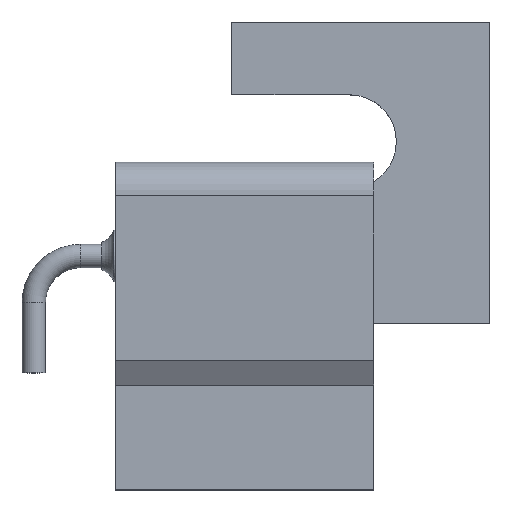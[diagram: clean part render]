
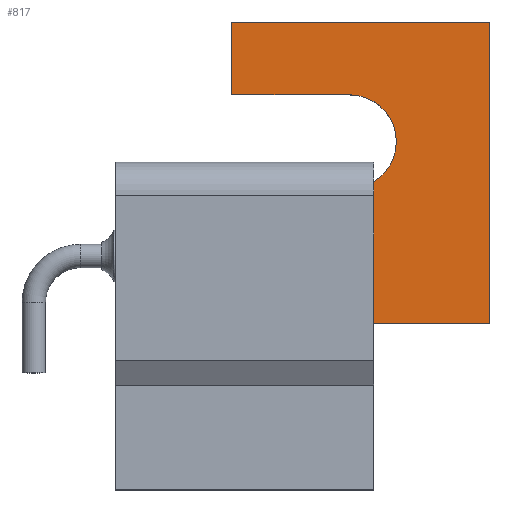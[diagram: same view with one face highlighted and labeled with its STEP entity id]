
A CAD part, top view. The second image highlights one B-rep face of the part: STEP entity #817.
In plain terms, the highlighted planar face has unit normal (0, 0, 1).
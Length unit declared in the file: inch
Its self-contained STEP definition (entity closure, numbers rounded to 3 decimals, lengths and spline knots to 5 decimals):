
#4 = CARTESIAN_POINT ( 'NONE',  ( 0.38, 0.1, 0.25 ) ) ;
#12 = CARTESIAN_POINT ( 'NONE',  ( -0.9, 0.1, 0.25 ) ) ;
#25 = CARTESIAN_POINT ( 'NONE',  ( 0.25, 0.389, 0.25 ) ) ;
#26 = ORIENTED_EDGE ( 'NONE', *, *, #838, .F. ) ;
#53 = ORIENTED_EDGE ( 'NONE', *, *, #388, .F. ) ;
#56 = ORIENTED_EDGE ( 'NONE', *, *, #480, .F. ) ;
#71 = AXIS2_PLACEMENT_3D ( 'NONE', #1658, #393, #2074 ) ;
#79 = ORIENTED_EDGE ( 'NONE', *, *, #903, .T. ) ;
#104 = VERTEX_POINT ( 'NONE', #2160 ) ;
#105 = ORIENTED_EDGE ( 'NONE', *, *, #167, .F. ) ;
#112 = CARTESIAN_POINT ( 'NONE',  ( 0.38, 0.35, 0.25 ) ) ;
#129 = DIRECTION ( 'NONE',  ( 0., 1., 0. ) ) ;
#150 = CARTESIAN_POINT ( 'NONE',  ( -0.38, 2.5, 0.25 ) ) ;
#155 = LINE ( 'NONE', #4, #2202 ) ;
#162 = ORIENTED_EDGE ( 'NONE', *, *, #2021, .T. ) ;
#167 = EDGE_CURVE ( 'NONE', #104, #286, #1410, .T. ) ;
#172 = EDGE_CURVE ( 'NONE', #195, #2004, #1234, .T. ) ;
#176 = LINE ( 'NONE', #226, #898 ) ;
#195 = VERTEX_POINT ( 'NONE', #2010 ) ;
#226 = CARTESIAN_POINT ( 'NONE',  ( 0.38, 0.389, 0.25 ) ) ;
#238 = DIRECTION ( 'NONE',  ( 0., -1., 0. ) ) ;
#241 = CARTESIAN_POINT ( 'NONE',  ( 0.28, 0.57327, 0.25 ) ) ;
#253 = DIRECTION ( 'NONE',  ( 0., -1., 0. ) ) ;
#264 = VECTOR ( 'NONE', #2005, 39.37008 ) ;
#286 = VERTEX_POINT ( 'NONE', #1776 ) ;
#288 = VECTOR ( 'NONE', #1350, 39.37008 ) ;
#337 = DIRECTION ( 'NONE',  ( -1., 0., 0. ) ) ;
#341 = CARTESIAN_POINT ( 'NONE',  ( 0.38, 0., 0.25 ) ) ;
#347 = FACE_BOUND ( 'NONE', #599, .T. ) ;
#378 = VERTEX_POINT ( 'NONE', #1501 ) ;
#388 = EDGE_CURVE ( 'NONE', #1631, #2162, #1002, .T. ) ;
#392 = VERTEX_POINT ( 'NONE', #1453 ) ;
#393 = DIRECTION ( 'NONE',  ( 0., 0., 1. ) ) ;
#401 = DIRECTION ( 'NONE',  ( -1., 0., 0. ) ) ;
#402 = CARTESIAN_POINT ( 'NONE',  ( 0.25, 1.611, 0.25 ) ) ;
#411 = CARTESIAN_POINT ( 'NONE',  ( 0.25, 2.111, 0.25 ) ) ;
#423 = CARTESIAN_POINT ( 'NONE',  ( 0.25, 2.111, 0.25 ) ) ;
#427 = LINE ( 'NONE', #1344, #288 ) ;
#450 = ORIENTED_EDGE ( 'NONE', *, *, #1853, .F. ) ;
#465 = DIRECTION ( 'NONE',  ( -1., 0., 0. ) ) ;
#471 = DIRECTION ( 'NONE',  ( 0., 0., -1. ) ) ;
#476 = PLANE ( 'NONE',  #1660 ) ;
#480 = EDGE_CURVE ( 'NONE', #655, #1326, #427, .T. ) ;
#501 = CARTESIAN_POINT ( 'NONE',  ( -0.25, 0.639, 0.25 ) ) ;
#504 = AXIS2_PLACEMENT_3D ( 'NONE', #589, #586, #583 ) ;
#518 = VERTEX_POINT ( 'NONE', #1224 ) ;
#541 = CARTESIAN_POINT ( 'NONE',  ( -0.38, 2.5, 0.25 ) ) ;
#583 = DIRECTION ( 'NONE',  ( -1., 0., 0. ) ) ;
#586 = DIRECTION ( 'NONE',  ( 0., 0., 1. ) ) ;
#589 = CARTESIAN_POINT ( 'NONE',  ( 0.25, 1.861, 0.25 ) ) ;
#592 = DIRECTION ( 'NONE',  ( 0., 1., 0. ) ) ;
#598 = LINE ( 'NONE', #960, #1808 ) ;
#599 = EDGE_LOOP ( 'NONE', ( #162, #1044, #1071, #79 ) ) ;
#613 = EDGE_CURVE ( 'NONE', #2004, #1869, #598, .T. ) ;
#655 = VERTEX_POINT ( 'NONE', #883 ) ;
#661 = CARTESIAN_POINT ( 'NONE',  ( 0.25, 1.611, 0.25 ) ) ;
#662 = CARTESIAN_POINT ( 'NONE',  ( -0.9, 0.57327, 0.25 ) ) ;
#689 = VECTOR ( 'NONE', #1199, 39.37008 ) ;
#755 = DIRECTION ( 'NONE',  ( 0., -1., 0. ) ) ;
#770 = CARTESIAN_POINT ( 'NONE',  ( 0.28, 0.1, 0.25 ) ) ;
#772 = EDGE_CURVE ( 'NONE', #1532, #836, #920, .T. ) ;
#816 = VECTOR ( 'NONE', #129, 39.37008 ) ;
#817 = ADVANCED_FACE ( 'NONE', ( #1331, #347 ), #476, .F. ) ;
#831 = ORIENTED_EDGE ( 'NONE', *, *, #772, .F. ) ;
#836 = VERTEX_POINT ( 'NONE', #411 ) ;
#838 = EDGE_CURVE ( 'NONE', #836, #378, #2035, .T. ) ;
#873 = EDGE_CURVE ( 'NONE', #1737, #104, #1955, .T. ) ;
#883 = CARTESIAN_POINT ( 'NONE',  ( 1., 0.889, 0.25 ) ) ;
#898 = VECTOR ( 'NONE', #253, 39.37008 ) ;
#901 = VECTOR ( 'NONE', #592, 39.37008 ) ;
#903 = EDGE_CURVE ( 'NONE', #392, #1789, #1638, .T. ) ;
#920 = CIRCLE ( 'NONE', #504, 0.25 ) ;
#940 = DIRECTION ( 'NONE',  ( 1., 0., 0. ) ) ;
#960 = CARTESIAN_POINT ( 'NONE',  ( -0.25, 0.389, 0.25 ) ) ;
#995 = VERTEX_POINT ( 'NONE', #12 ) ;
#1002 = LINE ( 'NONE', #1475, #1274 ) ;
#1019 = EDGE_CURVE ( 'NONE', #286, #1532, #1938, .T. ) ;
#1044 = ORIENTED_EDGE ( 'NONE', *, *, #2048, .T. ) ;
#1053 = VECTOR ( 'NONE', #2082, 39.37008 ) ;
#1071 = ORIENTED_EDGE ( 'NONE', *, *, #1213, .T. ) ;
#1080 = ORIENTED_EDGE ( 'NONE', *, *, #1019, .F. ) ;
#1106 = VECTOR ( 'NONE', #755, 39.37008 ) ;
#1129 = LINE ( 'NONE', #1757, #1106 ) ;
#1199 = DIRECTION ( 'NONE',  ( 1., 0., 0. ) ) ;
#1213 = EDGE_CURVE ( 'NONE', #518, #392, #1388, .T. ) ;
#1224 = CARTESIAN_POINT ( 'NONE',  ( -0.9, 0.35, 0.25 ) ) ;
#1234 = LINE ( 'NONE', #2055, #1053 ) ;
#1246 = ORIENTED_EDGE ( 'NONE', *, *, #2065, .F. ) ;
#1274 = VECTOR ( 'NONE', #1470, 39.37008 ) ;
#1319 = CIRCLE ( 'NONE', #71, 0.25 ) ;
#1326 = VERTEX_POINT ( 'NONE', #2141 ) ;
#1331 = FACE_OUTER_BOUND ( 'NONE', #2120, .T. ) ;
#1343 = DIRECTION ( 'NONE',  ( -1., 0., 0. ) ) ;
#1344 = CARTESIAN_POINT ( 'NONE',  ( -0.25, 0.889, 0.25 ) ) ;
#1350 = DIRECTION ( 'NONE',  ( -1., 0., 0. ) ) ;
#1362 = VECTOR ( 'NONE', #2070, 39.37008 ) ;
#1375 = ORIENTED_EDGE ( 'NONE', *, *, #613, .F. ) ;
#1388 = LINE ( 'NONE', #112, #264 ) ;
#1410 = LINE ( 'NONE', #2077, #1362 ) ;
#1449 = CARTESIAN_POINT ( 'NONE',  ( 0.38, 0.389, 0.25 ) ) ;
#1453 = CARTESIAN_POINT ( 'NONE',  ( 0.28, 0.35, 0.25 ) ) ;
#1470 = DIRECTION ( 'NONE',  ( 1., 0., 0. ) ) ;
#1475 = CARTESIAN_POINT ( 'NONE',  ( 1., 2.5, 0.25 ) ) ;
#1501 = CARTESIAN_POINT ( 'NONE',  ( -0.38, 2.111, 0.25 ) ) ;
#1521 = CARTESIAN_POINT ( 'NONE',  ( 1., 2.5, 0.25 ) ) ;
#1532 = VERTEX_POINT ( 'NONE', #402 ) ;
#1559 = EDGE_CURVE ( 'NONE', #1869, #1737, #176, .T. ) ;
#1631 = VERTEX_POINT ( 'NONE', #541 ) ;
#1638 = LINE ( 'NONE', #241, #1717 ) ;
#1658 = CARTESIAN_POINT ( 'NONE',  ( -0.25, 0.639, 0.25 ) ) ;
#1660 = AXIS2_PLACEMENT_3D ( 'NONE', #501, #471, #465 ) ;
#1695 = VECTOR ( 'NONE', #337, 39.37008 ) ;
#1717 = VECTOR ( 'NONE', #238, 39.37008 ) ;
#1737 = VERTEX_POINT ( 'NONE', #2052 ) ;
#1757 = CARTESIAN_POINT ( 'NONE',  ( 1., 2.5, 0.25 ) ) ;
#1776 = CARTESIAN_POINT ( 'NONE',  ( -1., 1.611, 0.25 ) ) ;
#1789 = VERTEX_POINT ( 'NONE', #770 ) ;
#1803 = ORIENTED_EDGE ( 'NONE', *, *, #873, .F. ) ;
#1808 = VECTOR ( 'NONE', #940, 39.37008 ) ;
#1853 = EDGE_CURVE ( 'NONE', #2162, #655, #1129, .T. ) ;
#1869 = VERTEX_POINT ( 'NONE', #1449 ) ;
#1877 = LINE ( 'NONE', #150, #901 ) ;
#1930 = ORIENTED_EDGE ( 'NONE', *, *, #1559, .F. ) ;
#1938 = LINE ( 'NONE', #661, #689 ) ;
#1955 = LINE ( 'NONE', #341, #1695 ) ;
#2004 = VERTEX_POINT ( 'NONE', #25 ) ;
#2005 = DIRECTION ( 'NONE',  ( 1., 0., 0. ) ) ;
#2010 = CARTESIAN_POINT ( 'NONE',  ( -0.25, 0.389, 0.25 ) ) ;
#2021 = EDGE_CURVE ( 'NONE', #1789, #995, #155, .T. ) ;
#2035 = LINE ( 'NONE', #423, #2142 ) ;
#2048 = EDGE_CURVE ( 'NONE', #995, #518, #2049, .T. ) ;
#2049 = LINE ( 'NONE', #662, #816 ) ;
#2052 = CARTESIAN_POINT ( 'NONE',  ( 0.38, 0., 0.25 ) ) ;
#2055 = CARTESIAN_POINT ( 'NONE',  ( -0.25, 0.389, 0.25 ) ) ;
#2065 = EDGE_CURVE ( 'NONE', #1326, #195, #1319, .T. ) ;
#2070 = DIRECTION ( 'NONE',  ( 0., 1., 0. ) ) ;
#2074 = DIRECTION ( 'NONE',  ( -1., 0., 0. ) ) ;
#2077 = CARTESIAN_POINT ( 'NONE',  ( -1., 1.611, 0.25 ) ) ;
#2082 = DIRECTION ( 'NONE',  ( 1., 0., 0. ) ) ;
#2084 = ORIENTED_EDGE ( 'NONE', *, *, #172, .F. ) ;
#2116 = ORIENTED_EDGE ( 'NONE', *, *, #2123, .F. ) ;
#2120 = EDGE_LOOP ( 'NONE', ( #450, #53, #2116, #26, #831, #1080, #105, #1803, #1930, #1375, #2084, #1246, #56 ) ) ;
#2123 = EDGE_CURVE ( 'NONE', #378, #1631, #1877, .T. ) ;
#2141 = CARTESIAN_POINT ( 'NONE',  ( -0.25, 0.889, 0.25 ) ) ;
#2142 = VECTOR ( 'NONE', #401, 39.37008 ) ;
#2160 = CARTESIAN_POINT ( 'NONE',  ( -1., 0., 0.25 ) ) ;
#2162 = VERTEX_POINT ( 'NONE', #1521 ) ;
#2202 = VECTOR ( 'NONE', #1343, 39.37008 ) ;
